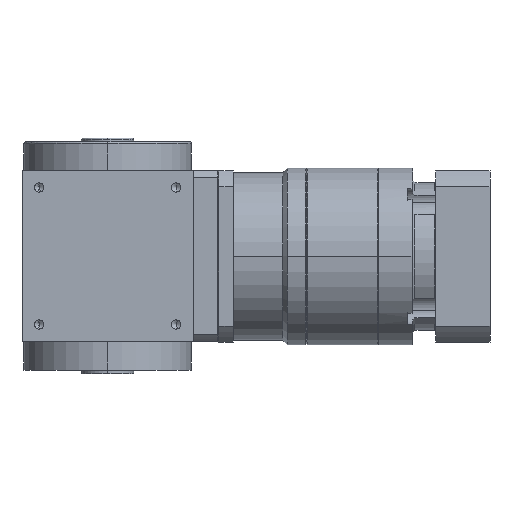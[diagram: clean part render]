
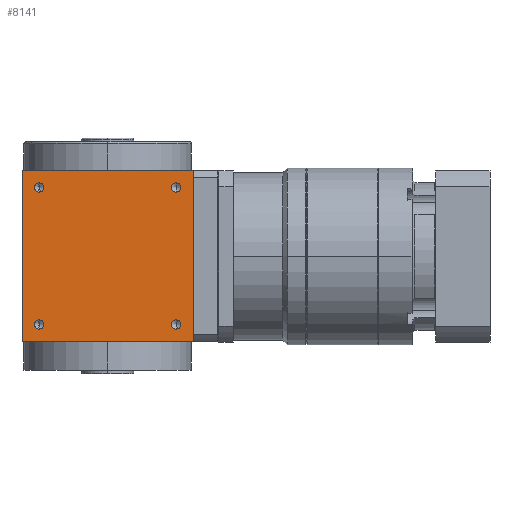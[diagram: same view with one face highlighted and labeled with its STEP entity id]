
A CAD part, left-side view. The second image highlights one B-rep face of the part: STEP entity #8141.
In plain terms, the highlighted planar face has unit normal (-1, 0, 0).
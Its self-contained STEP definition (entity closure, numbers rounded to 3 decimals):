
#93 = DIRECTION ( 'NONE',  ( 1., 0., 0. ) ) ;
#159 = ORIENTED_EDGE ( 'NONE', *, *, #161, .T. ) ;
#161 = EDGE_CURVE ( 'NONE', #5806, #4634, #4442, .T. ) ;
#218 = EDGE_LOOP ( 'NONE', ( #10315, #6246 ) ) ;
#296 = AXIS2_PLACEMENT_3D ( 'NONE', #10253, #9304, #6057 ) ;
#301 = DIRECTION ( 'NONE',  ( 0., 0., -1. ) ) ;
#460 = CIRCLE ( 'NONE', #1599, 2.5 ) ;
#470 = CARTESIAN_POINT ( 'NONE',  ( -45., -36., 36. ) ) ;
#546 = CARTESIAN_POINT ( 'NONE',  ( -45., -45., -45. ) ) ;
#677 = EDGE_CURVE ( 'NONE', #6380, #6168, #9910, .T. ) ;
#747 = CARTESIAN_POINT ( 'NONE',  ( -45., 36., -36. ) ) ;
#792 = VERTEX_POINT ( 'NONE', #983 ) ;
#846 = ORIENTED_EDGE ( 'NONE', *, *, #7727, .T. ) ;
#915 = CARTESIAN_POINT ( 'NONE',  ( -45., 36., 36. ) ) ;
#922 = VERTEX_POINT ( 'NONE', #6807 ) ;
#947 = DIRECTION ( 'NONE',  ( 0., 0., 1. ) ) ;
#982 = DIRECTION ( 'NONE',  ( 0., 0., 1. ) ) ;
#983 = CARTESIAN_POINT ( 'NONE',  ( -45., -36., -33.5 ) ) ;
#1009 = VERTEX_POINT ( 'NONE', #1266 ) ;
#1056 = CARTESIAN_POINT ( 'NONE',  ( -45., 36., 33.5 ) ) ;
#1159 = VECTOR ( 'NONE', #2593, 1000. ) ;
#1224 = VERTEX_POINT ( 'NONE', #7434 ) ;
#1266 = CARTESIAN_POINT ( 'NONE',  ( -45., 45., -45. ) ) ;
#1288 = EDGE_LOOP ( 'NONE', ( #2768, #2478 ) ) ;
#1314 = ORIENTED_EDGE ( 'NONE', *, *, #3427, .F. ) ;
#1592 = ORIENTED_EDGE ( 'NONE', *, *, #677, .F. ) ;
#1599 = AXIS2_PLACEMENT_3D ( 'NONE', #6486, #5685, #9507 ) ;
#1736 = CARTESIAN_POINT ( 'NONE',  ( -45., 0., -45. ) ) ;
#1771 = CIRCLE ( 'NONE', #6091, 2.5 ) ;
#1838 = DIRECTION ( 'NONE',  ( 1., 0., 0. ) ) ;
#1944 = CARTESIAN_POINT ( 'NONE',  ( -45., -45., -45. ) ) ;
#2042 = CARTESIAN_POINT ( 'NONE',  ( -45., -45., 45. ) ) ;
#2076 = CIRCLE ( 'NONE', #4564, 2.5 ) ;
#2191 = CARTESIAN_POINT ( 'NONE',  ( -45., 36., -33.5 ) ) ;
#2249 = CARTESIAN_POINT ( 'NONE',  ( -45., 36., -38.5 ) ) ;
#2251 = FACE_BOUND ( 'NONE', #6921, .T. ) ;
#2355 = CARTESIAN_POINT ( 'NONE',  ( -45., 45., -45. ) ) ;
#2454 = DIRECTION ( 'NONE',  ( 1., 0., 0. ) ) ;
#2478 = ORIENTED_EDGE ( 'NONE', *, *, #10200, .T. ) ;
#2485 = VECTOR ( 'NONE', #301, 1000. ) ;
#2543 = LINE ( 'NONE', #2700, #3378 ) ;
#2593 = DIRECTION ( 'NONE',  ( 0., -1., 0. ) ) ;
#2700 = CARTESIAN_POINT ( 'NONE',  ( -45., 45., -45. ) ) ;
#2768 = ORIENTED_EDGE ( 'NONE', *, *, #6112, .T. ) ;
#3050 = FACE_BOUND ( 'NONE', #1288, .T. ) ;
#3110 = CARTESIAN_POINT ( 'NONE',  ( -45., -36., 33.5 ) ) ;
#3173 = EDGE_CURVE ( 'NONE', #4634, #5806, #3544, .T. ) ;
#3378 = VECTOR ( 'NONE', #8191, 1000. ) ;
#3427 = EDGE_CURVE ( 'NONE', #1009, #8901, #2543, .T. ) ;
#3544 = CIRCLE ( 'NONE', #10207, 2.5 ) ;
#3656 = DIRECTION ( 'NONE',  ( 1., 0., 0. ) ) ;
#3732 = DIRECTION ( 'NONE',  ( 0., 0., 1. ) ) ;
#3754 = DIRECTION ( 'NONE',  ( 0., -1., 0. ) ) ;
#3805 = AXIS2_PLACEMENT_3D ( 'NONE', #8916, #93, #982 ) ;
#3931 = CIRCLE ( 'NONE', #296, 2.5 ) ;
#4119 = CARTESIAN_POINT ( 'NONE',  ( -45., 36., -36. ) ) ;
#4372 = VERTEX_POINT ( 'NONE', #2249 ) ;
#4441 = ORIENTED_EDGE ( 'NONE', *, *, #5364, .F. ) ;
#4442 = CIRCLE ( 'NONE', #3805, 2.5 ) ;
#4564 = AXIS2_PLACEMENT_3D ( 'NONE', #747, #6114, #3732 ) ;
#4634 = VERTEX_POINT ( 'NONE', #8666 ) ;
#4649 = EDGE_LOOP ( 'NONE', ( #6002, #846 ) ) ;
#5063 = DIRECTION ( 'NONE',  ( 0., 0., 1. ) ) ;
#5229 = AXIS2_PLACEMENT_3D ( 'NONE', #470, #3656, #6838 ) ;
#5274 = AXIS2_PLACEMENT_3D ( 'NONE', #2355, #5534, #6178 ) ;
#5364 = EDGE_CURVE ( 'NONE', #8901, #6380, #6147, .T. ) ;
#5420 = EDGE_CURVE ( 'NONE', #8738, #922, #9238, .T. ) ;
#5435 = FACE_BOUND ( 'NONE', #218, .T. ) ;
#5534 = DIRECTION ( 'NONE',  ( -1., 0., 0. ) ) ;
#5685 = DIRECTION ( 'NONE',  ( 1., 0., 0. ) ) ;
#5711 = CARTESIAN_POINT ( 'NONE',  ( -45., 45., 45. ) ) ;
#5806 = VERTEX_POINT ( 'NONE', #1056 ) ;
#6002 = ORIENTED_EDGE ( 'NONE', *, *, #9751, .T. ) ;
#6057 = DIRECTION ( 'NONE',  ( 0., 0., 1. ) ) ;
#6060 = EDGE_LOOP ( 'NONE', ( #1314, #7349, #1592, #4441 ) ) ;
#6091 = AXIS2_PLACEMENT_3D ( 'NONE', #7574, #1838, #5063 ) ;
#6112 = EDGE_CURVE ( 'NONE', #7629, #4372, #2076, .T. ) ;
#6114 = DIRECTION ( 'NONE',  ( 1., 0., 0. ) ) ;
#6147 = LINE ( 'NONE', #8459, #7064 ) ;
#6168 = VERTEX_POINT ( 'NONE', #546 ) ;
#6178 = DIRECTION ( 'NONE',  ( 0., -1., 0. ) ) ;
#6246 = ORIENTED_EDGE ( 'NONE', *, *, #5420, .T. ) ;
#6380 = VERTEX_POINT ( 'NONE', #2042 ) ;
#6486 = CARTESIAN_POINT ( 'NONE',  ( -45., -36., -36. ) ) ;
#6807 = CARTESIAN_POINT ( 'NONE',  ( -45., -36., 38.5 ) ) ;
#6838 = DIRECTION ( 'NONE',  ( 0., 0., 1. ) ) ;
#6921 = EDGE_LOOP ( 'NONE', ( #9159, #159 ) ) ;
#6958 = FACE_OUTER_BOUND ( 'NONE', #6060, .T. ) ;
#7064 = VECTOR ( 'NONE', #3754, 1000. ) ;
#7132 = EDGE_CURVE ( 'NONE', #1009, #6168, #9577, .T. ) ;
#7349 = ORIENTED_EDGE ( 'NONE', *, *, #7132, .T. ) ;
#7434 = CARTESIAN_POINT ( 'NONE',  ( -45., -36., -38.5 ) ) ;
#7530 = EDGE_CURVE ( 'NONE', #922, #8738, #3931, .T. ) ;
#7574 = CARTESIAN_POINT ( 'NONE',  ( -45., -36., -36. ) ) ;
#7629 = VERTEX_POINT ( 'NONE', #2191 ) ;
#7727 = EDGE_CURVE ( 'NONE', #1224, #792, #460, .T. ) ;
#8076 = DIRECTION ( 'NONE',  ( 0., 0., 1. ) ) ;
#8141 = ADVANCED_FACE ( 'NONE', ( #6958, #10265, #3050, #2251, #5435 ), #9519, .T. ) ;
#8191 = DIRECTION ( 'NONE',  ( 0., 0., 1. ) ) ;
#8459 = CARTESIAN_POINT ( 'NONE',  ( -45., 0., 45. ) ) ;
#8666 = CARTESIAN_POINT ( 'NONE',  ( -45., 36., 38.5 ) ) ;
#8738 = VERTEX_POINT ( 'NONE', #3110 ) ;
#8901 = VERTEX_POINT ( 'NONE', #5711 ) ;
#8916 = CARTESIAN_POINT ( 'NONE',  ( -45., 36., 36. ) ) ;
#9034 = AXIS2_PLACEMENT_3D ( 'NONE', #4119, #2454, #947 ) ;
#9159 = ORIENTED_EDGE ( 'NONE', *, *, #3173, .T. ) ;
#9184 = CIRCLE ( 'NONE', #9034, 2.5 ) ;
#9238 = CIRCLE ( 'NONE', #5229, 2.5 ) ;
#9304 = DIRECTION ( 'NONE',  ( 1., 0., 0. ) ) ;
#9507 = DIRECTION ( 'NONE',  ( 0., 0., 1. ) ) ;
#9519 = PLANE ( 'NONE',  #5274 ) ;
#9577 = LINE ( 'NONE', #1736, #1159 ) ;
#9751 = EDGE_CURVE ( 'NONE', #792, #1224, #1771, .T. ) ;
#9869 = DIRECTION ( 'NONE',  ( 1., 0., 0. ) ) ;
#9910 = LINE ( 'NONE', #1944, #2485 ) ;
#10200 = EDGE_CURVE ( 'NONE', #4372, #7629, #9184, .T. ) ;
#10207 = AXIS2_PLACEMENT_3D ( 'NONE', #915, #9869, #8076 ) ;
#10253 = CARTESIAN_POINT ( 'NONE',  ( -45., -36., 36. ) ) ;
#10265 = FACE_BOUND ( 'NONE', #4649, .T. ) ;
#10315 = ORIENTED_EDGE ( 'NONE', *, *, #7530, .T. ) ;
